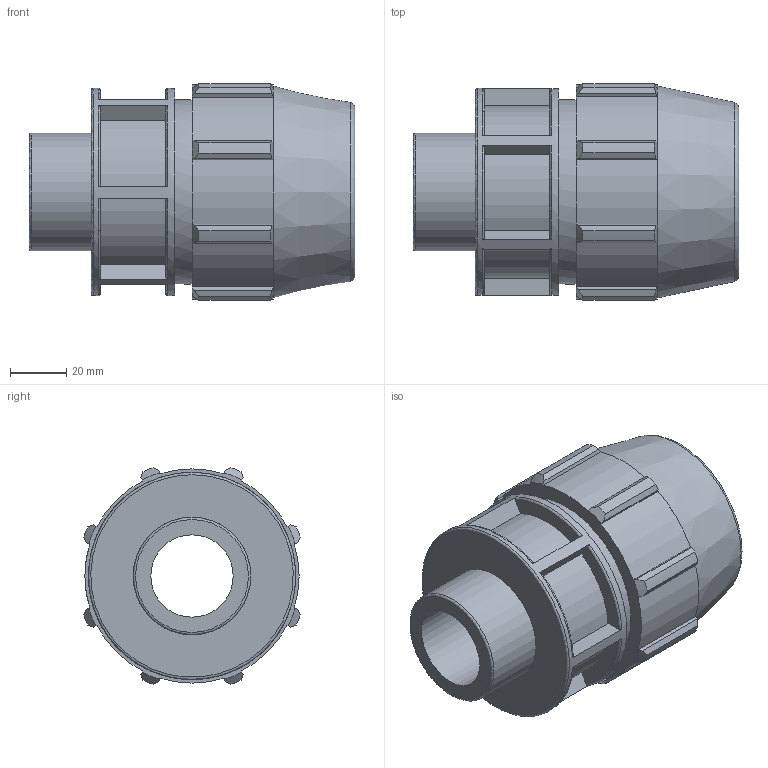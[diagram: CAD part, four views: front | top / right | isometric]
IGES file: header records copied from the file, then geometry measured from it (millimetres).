
Global section: file name: 0702M0T13013.ipt; native system: Autodesk Inventor 2019; preprocessor: unknown; author: KIM; date: 20210826.124441; units: inch
Bounding box: 116.08 x 77.2 x 77.2 mm (x, y, z)
Volume: 251761.8 mm3; surface area: 51498.2 mm2
Topology: 1 solids, 1 shells, 117 faces, 321 edges, 216 vertices
Faces by surface type: plane 63, cylinder 25, revolution 19, cone 10
Full cylindrical faces by diameter (mm): 41.91 x1, 65.634 x1, 73.838 x1
